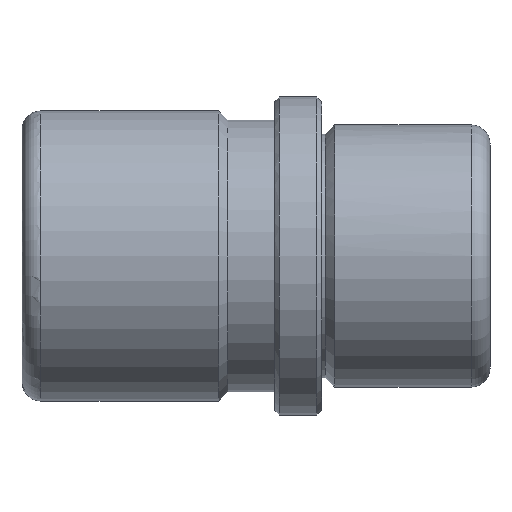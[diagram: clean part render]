
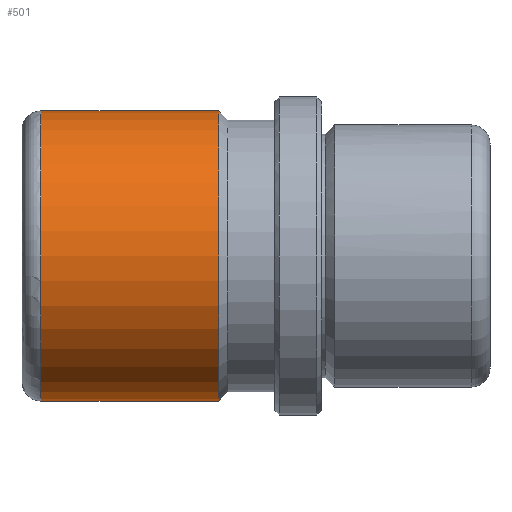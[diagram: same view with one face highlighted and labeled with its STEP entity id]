
A CAD part, front view. The second image highlights one B-rep face of the part: STEP entity #501.
In plain terms, the highlighted cylindrical face has radius 15.5 mm (diameter 31 mm), a partial arc.
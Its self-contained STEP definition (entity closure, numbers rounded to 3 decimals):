
#290=CARTESIAN_POINT('Line Origine',(18.,0.,15.5)) ;
#294=CARTESIAN_POINT('Vertex',(-11.,0.,15.5)) ;
#296=CARTESIAN_POINT('Vertex',(-30.,0.,15.5)) ;
#310=CARTESIAN_POINT('Vertex',(-11.,0.,-15.5)) ;
#313=CARTESIAN_POINT('Line Origine',(18.,0.,-15.5)) ;
#317=CARTESIAN_POINT('Vertex',(-30.,0.,-15.5)) ;
#464=CARTESIAN_POINT('Axis2P3D Location',(18.,0.,0.)) ;
#469=CARTESIAN_POINT('Axis2P3D Location',(-11.,0.,0.)) ;
#473=CARTESIAN_POINT('Vertex',(-11.,-15.5,0.)) ;
#476=CARTESIAN_POINT('Axis2P3D Location',(-11.,0.,0.)) ;
#481=CARTESIAN_POINT('Axis2P3D Location',(-30.,0.,0.)) ;
#485=CARTESIAN_POINT('Vertex',(-30.,-15.5,0.)) ;
#488=CARTESIAN_POINT('Axis2P3D Location',(-30.,0.,0.)) ;
#291=DIRECTION('Vector Direction',(-1.,0.,0.)) ;
#314=DIRECTION('Vector Direction',(-1.,0.,0.)) ;
#465=DIRECTION('Axis2P3D Direction',(-1.,-0.,-0.)) ;
#466=DIRECTION('Axis2P3D XDirection',(0.,0.,-1.)) ;
#470=DIRECTION('Axis2P3D Direction',(-1.,-0.,-0.)) ;
#477=DIRECTION('Axis2P3D Direction',(-1.,-0.,-0.)) ;
#482=DIRECTION('Axis2P3D Direction',(-1.,-0.,-0.)) ;
#489=DIRECTION('Axis2P3D Direction',(-1.,-0.,-0.)) ;
#467=AXIS2_PLACEMENT_3D('Cylinder Axis2P3D',#464,#465,#466) ;
#471=AXIS2_PLACEMENT_3D('Circle Axis2P3D',#469,#470,$) ;
#478=AXIS2_PLACEMENT_3D('Circle Axis2P3D',#476,#477,$) ;
#483=AXIS2_PLACEMENT_3D('Circle Axis2P3D',#481,#482,$) ;
#490=AXIS2_PLACEMENT_3D('Circle Axis2P3D',#488,#489,$) ;
#494=ORIENTED_EDGE('',*,*,#319,.T.) ;
#495=ORIENTED_EDGE('',*,*,#475,.F.) ;
#496=ORIENTED_EDGE('',*,*,#480,.F.) ;
#497=ORIENTED_EDGE('',*,*,#298,.T.) ;
#498=ORIENTED_EDGE('',*,*,#487,.T.) ;
#499=ORIENTED_EDGE('',*,*,#492,.T.) ;
#292=VECTOR('Line Direction',#291,1.) ;
#315=VECTOR('Line Direction',#314,1.) ;
#501=ADVANCED_FACE('CF 641 19 x 50',(#500),#468,.T.) ;
#472=CIRCLE('generated circle',#471,15.5) ;
#479=CIRCLE('generated circle',#478,15.5) ;
#484=CIRCLE('generated circle',#483,15.5) ;
#491=CIRCLE('generated circle',#490,15.5) ;
#468=CYLINDRICAL_SURFACE('generated cylinder',#467,15.5) ;
#298=EDGE_CURVE('',#295,#297,#293,.T.) ;
#319=EDGE_CURVE('',#318,#311,#316,.F.) ;
#475=EDGE_CURVE('',#474,#311,#472,.F.) ;
#480=EDGE_CURVE('',#295,#474,#479,.F.) ;
#487=EDGE_CURVE('',#297,#486,#484,.F.) ;
#492=EDGE_CURVE('',#486,#318,#491,.F.) ;
#493=EDGE_LOOP('',(#494,#495,#496,#497,#498,#499)) ;
#500=FACE_OUTER_BOUND('',#493,.T.) ;
#293=LINE('Line',#290,#292) ;
#316=LINE('Line',#313,#315) ;
#295=VERTEX_POINT('',#294) ;
#297=VERTEX_POINT('',#296) ;
#311=VERTEX_POINT('',#310) ;
#318=VERTEX_POINT('',#317) ;
#474=VERTEX_POINT('',#473) ;
#486=VERTEX_POINT('',#485) ;
